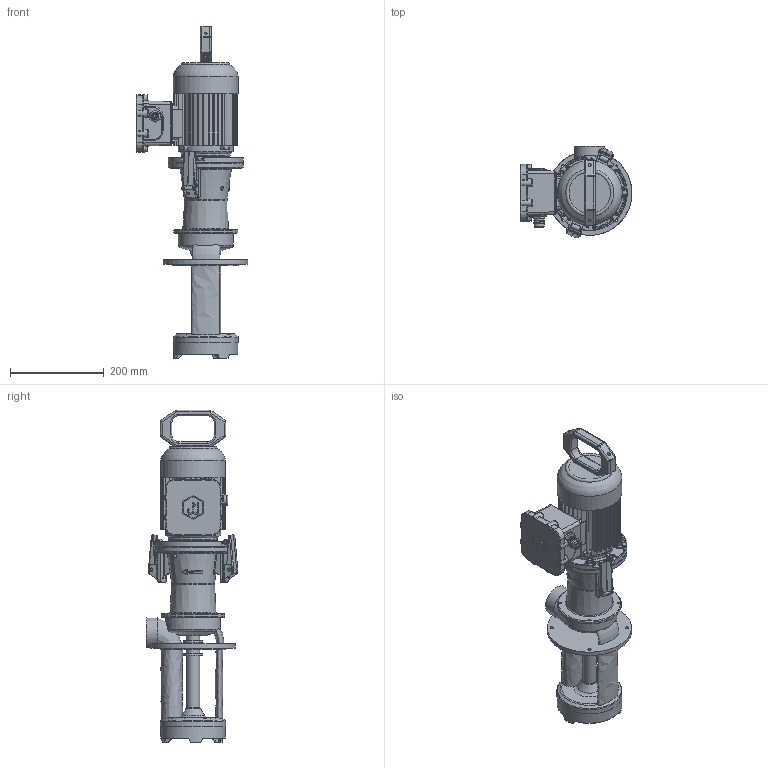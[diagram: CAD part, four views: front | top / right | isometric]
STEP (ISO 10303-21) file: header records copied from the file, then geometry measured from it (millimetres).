
FILE_DESCRIPTION(/* description */ ('Unknown'),/* implementation_level */ '2;1');
FILE_NAME(/* name */ 'EP EX 150-200',/* time_stamp */ '2025-05-30T16:21:55+03:00',/* author */ ('Unknown'),/* organization */ ('Unknown'),/* preprocessor_version */ 'ST-DEVELOPER v16.7',/* originating_system */ 'DEX',/* authorisation */ $);
FILE_SCHEMA (('AUTOMOTIVE_DESIGN {1 0 10303 214 3 1 1}'));
Length unit declared in the file: millimetre
Products named in the file (1): EP EX 150-200
Bounding box: 238.5 x 195.43 x 707.21 mm (x, y, z)
Volume: 6439711.8 mm3; surface area: 666928.6 mm2
Topology: 2 solids, 10 shells, 2376 faces, 6461 edges, 4009 vertices
Faces by surface type: cylinder 897, plane 741, bspline 368, torus 201, cone 90, sphere 79
Full cylindrical faces by diameter (mm): 3 x12, 3.242 x12, 4 x14, 4.134 x24, 4.9 x4, 5 x86, 5.3 x4, 5.5 x2, 5.7 x8, 6 x8, 7 x8, 8 x3, 9.5 x8, 10 x8, 12 x1, 13 x2, 13.962 x1, 16 x1, 18.376 x5, 20 x1, 21.8 x2, 28 x1, 29 x3, 30 x1, 42 x2, 44 x1, 48 x1, 62 x1, 94 x1, 102 x1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
Entity records: 113401 total; most frequent: CARTESIAN_POINT 43043, ORIENTED_EDGE 11576, DIRECTION 10828, EDGE_CURVE 5788, AXIS2_PLACEMENT_3D 4274, VERTEX_POINT 3794, FACE_BOUND 2816, EDGE_LOOP 2808
